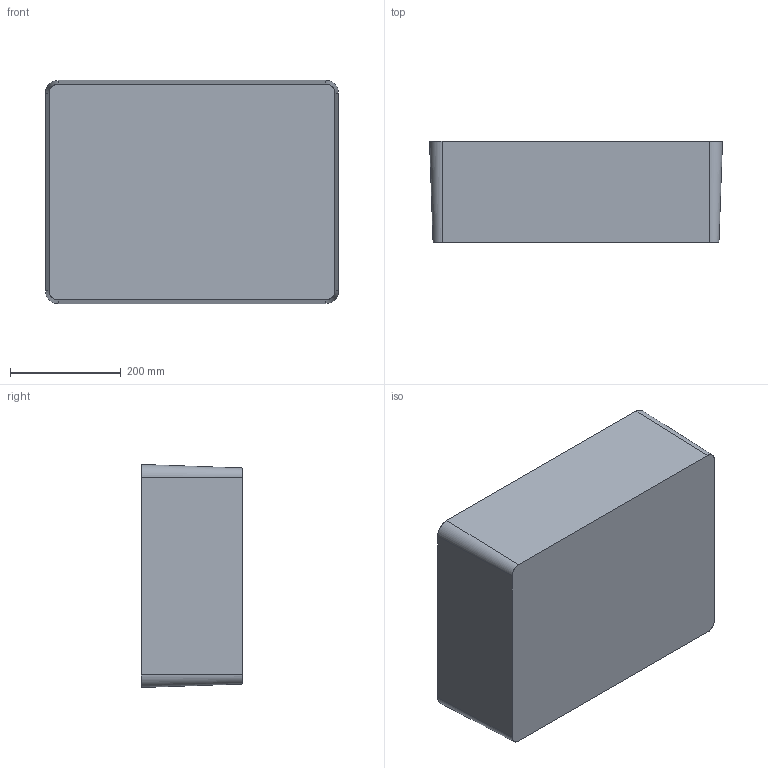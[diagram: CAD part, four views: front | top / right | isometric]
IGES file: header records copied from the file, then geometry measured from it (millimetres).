
Start section: SolidWorks IGES file using analytic representation for surfaces
Global section: file name: C:\working\1560\1561-931B-INT.IGS; native system: SolidWorks 2005 by SolidWorks Corporation; preprocessor: SolidWorks 2005 by SolidWorks Corporation; author: akameda; date: 050707.134641; units: inch
Bounding box: 528.57 x 183.13 x 402.46 mm (x, y, z)
Surface area: 1031621.9 mm2 (no closed solid volume)
Topology: 0 solids, 0 shells, 88 faces, 920 edges, 920 vertices
Faces by surface type: bspline 53, revolution 35
